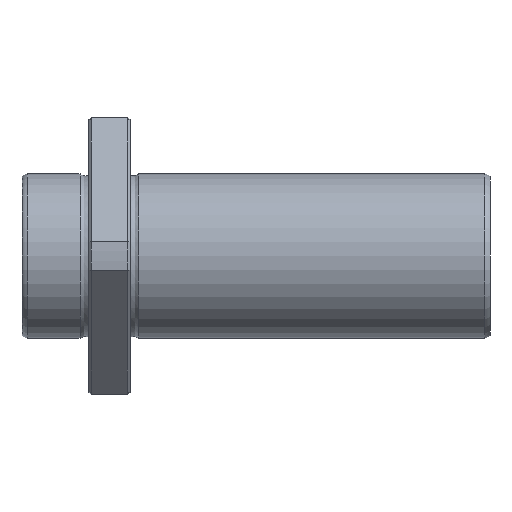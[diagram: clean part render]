
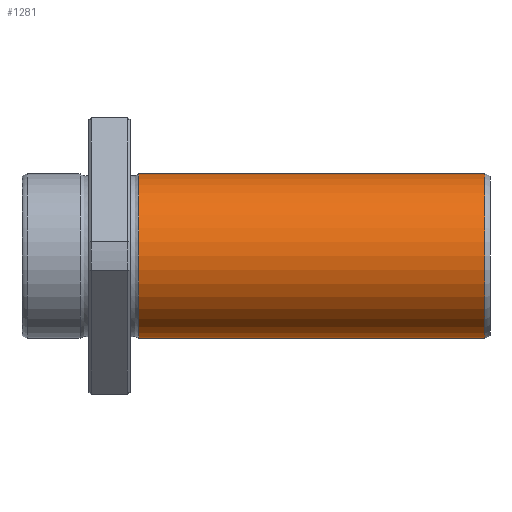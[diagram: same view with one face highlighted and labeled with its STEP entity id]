
A CAD part, front view. The second image highlights one B-rep face of the part: STEP entity #1281.
In plain terms, the highlighted cylindrical face has radius 16 mm (diameter 32 mm), a full revolution.
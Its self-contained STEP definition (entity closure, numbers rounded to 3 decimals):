
#1247=CARTESIAN_POINT('',(89.999,0.0,16.));
#1248=VERTEX_POINT('',#1247);
#1249=CARTESIAN_POINT('',(89.999,0.0,0.0));
#1250=DIRECTION('',(-1.0,0.0,0.0));
#1251=DIRECTION('',(0.0,0.0,1.0));
#1252=AXIS2_PLACEMENT_3D('',#1249,#1250,#1251);
#1253=CIRCLE('',#1252,16.);
#1254=EDGE_CURVE('',#1248,#1248,#1253,.T.);
#1262=CARTESIAN_POINT('',(56.359,0.0,0.0));
#1263=DIRECTION('',(-1.0,0.0,0.0));
#1264=DIRECTION('',(0.0,0.0,1.0));
#1265=AXIS2_PLACEMENT_3D('',#1262,#1263,#1264);
#1266=CYLINDRICAL_SURFACE('',#1265,16.);
#1267=CARTESIAN_POINT('',(22.72,0.0,16.));
#1268=VERTEX_POINT('',#1267);
#1269=CARTESIAN_POINT('',(22.72,0.0,0.0));
#1270=DIRECTION('',(-1.0,0.0,0.0));
#1271=DIRECTION('',(0.0,0.0,1.0));
#1272=AXIS2_PLACEMENT_3D('',#1269,#1270,#1271);
#1273=CIRCLE('',#1272,16.);
#1274=EDGE_CURVE('',#1268,#1268,#1273,.T.);
#1275=ORIENTED_EDGE('',*,*,#1274,.F.);
#1276=EDGE_LOOP('',(#1275));
#1277=FACE_OUTER_BOUND('',#1276,.T.);
#1278=ORIENTED_EDGE('',*,*,#1254,.T.);
#1279=EDGE_LOOP('',(#1278));
#1280=FACE_BOUND('',#1279,.T.);
#1281=ADVANCED_FACE('',(#1277,#1280),#1266,.T.);
